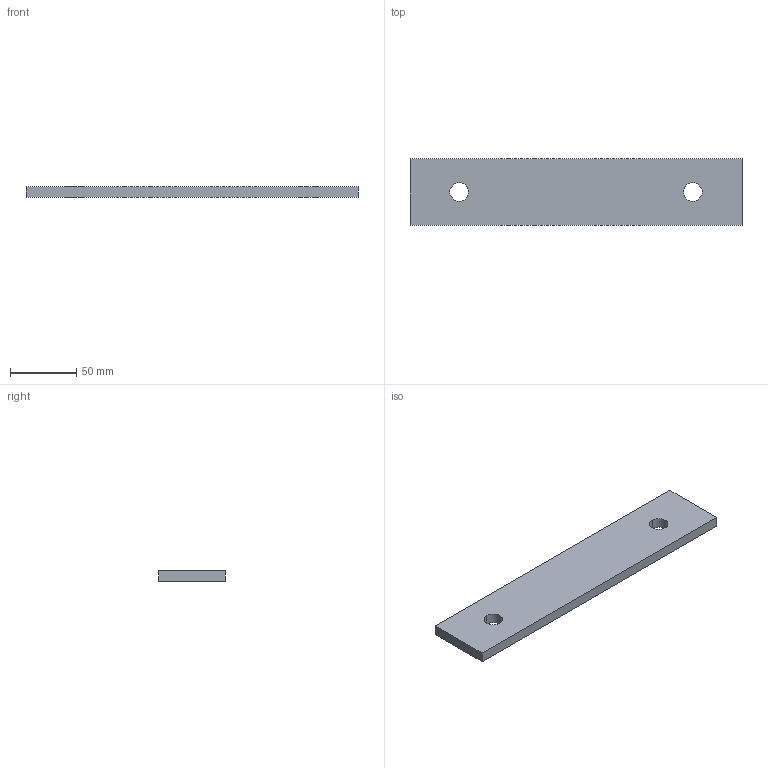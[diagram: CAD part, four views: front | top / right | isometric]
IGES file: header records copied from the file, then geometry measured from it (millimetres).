
Start section: 3D InterOp IGES (Version 26 1 0), Spatial Corp. Copyright (c) 1999-2007.
Global section: file name: GL250X8.igs; native system: Spatial Corp.; preprocessor: 3D InterOp GENERIC/IGES 3.0; author: Noname; organization: Noname; date: 20181022.154100; units: millimetre
Bounding box: 250 x 50 x 8 mm (x, y, z)
Surface area: 29888 mm2 (no closed solid volume)
Topology: 0 solids, 0 shells, 10 faces, 48 edges, 48 vertices
Faces by surface type: extrusion 6, revolution 4
